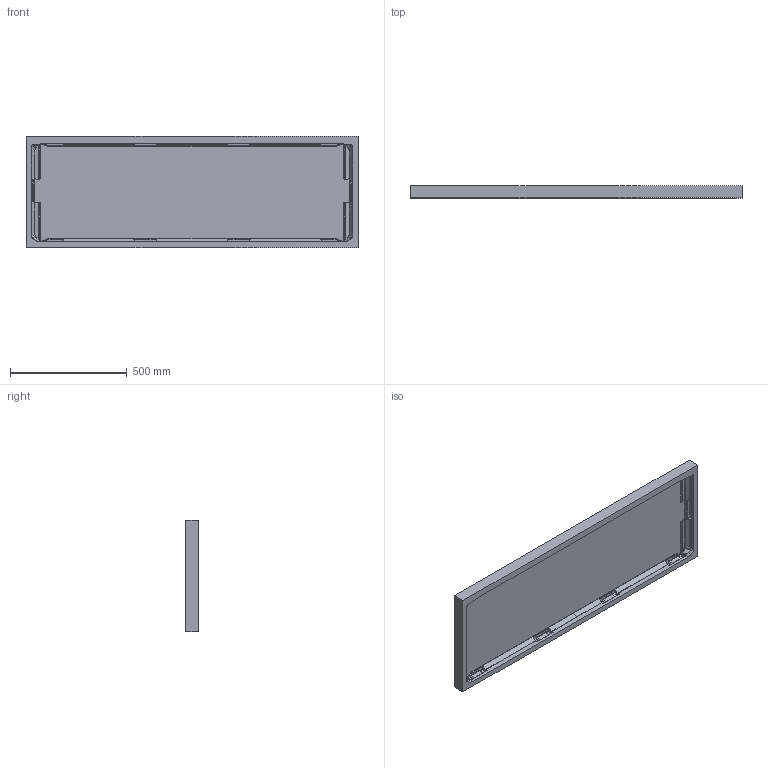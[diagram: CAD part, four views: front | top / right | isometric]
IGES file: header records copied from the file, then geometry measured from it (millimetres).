
Start section: SolidWorks IGES file using analytic representation for surfaces
Global section: file name: C:\Users\chad.chaiyont\My Project\Vault Case\Vault TOR\Vault CAD\PP PID cad\V800 PP\V800 PP tubs\V800 PP TOP TUB 2-10-2024.IGS; native system: SolidWorks 2021; preprocessor: SolidWorks 2021; author: Chad.Chaiyont; date: 240212.072956; units: millimetre
Bounding box: 1423.41 x 51.85 x 479.4 mm (x, y, z)
Surface area: 1697499.6 mm2 (no closed solid volume)
Topology: 0 solids, 0 shells, 1028 faces, 5533 edges, 5493 vertices
Faces by surface type: bspline 1028
